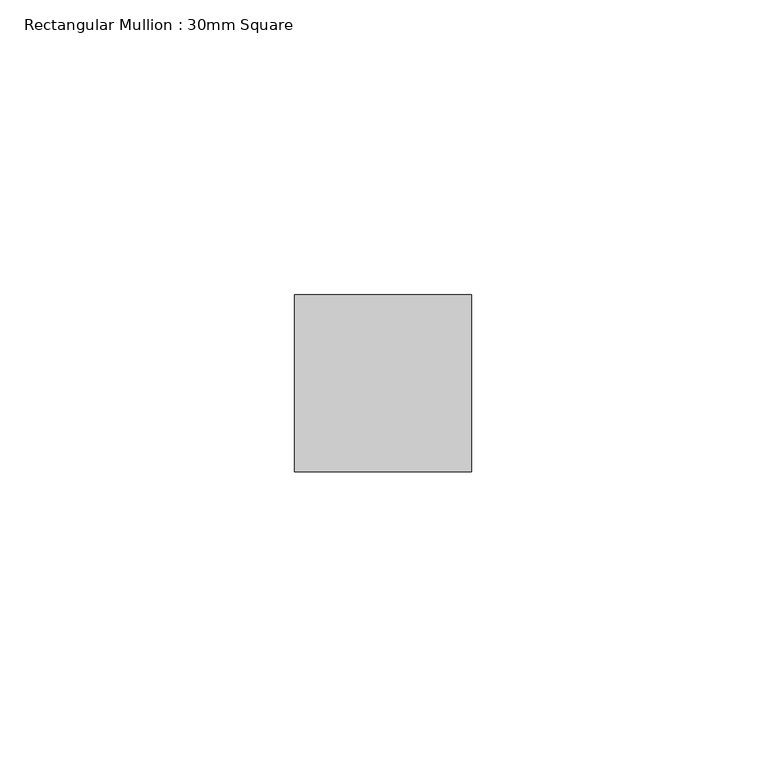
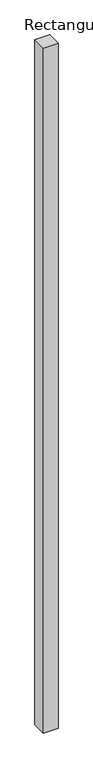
"""IFC4 building model written with IfcOpenShell, lengths in millimetres: member geometry, Rectangular Mullion : 30mm Square."""

from ifc_helpers import new_model, si_unit, frame, origin, place, context, project, spatial, polyline, outline, extrude, source, transform, mapped, element, save


def rectangular_mullion_30mm_square_353f8307(model_context):
    return source(origin(), model_context, "Body", "SweptSolid", [
        extrude(outline(polyline([(0.0, 15.0), (0.0, -15.0), (-30.0, -15.0), (-30.0, 15.0), (0.0, 15.0)])), frame((0.0, 0.0, -1479.0), z_axis=(0.0, 0.0, 1.0), x_axis=(1.0, 0.0, 0.0)), (0.0, 0.0, 1.0), 1479.0),
    ])


if __name__ == "__main__":
    model = new_model("IFC4")
    model_context = context("Model", 3, world=origin())
    ifc_project = project(units=[si_unit("LENGTHUNIT", "METRE", prefix="MILLI")], contexts=[model_context])
    site = spatial("IfcSite", under=ifc_project)
    building = spatial("IfcBuilding", under=site)
    placement = place(None, origin())
    rectangular_mullion_30mm_square_shape = rectangular_mullion_30mm_square_353f8307(model_context)
    element("IfcMember", 1, ObjectType="Rectangular Mullion : 30mm Square", at=placement, inside=building, context=model_context, shape_type="MappedRepresentation", body=[
        mapped(rectangular_mullion_30mm_square_shape, transform((0.0, 0.0, 0.0), x_axis=(1.0, 0.0, 0.0), y_axis=(0.0, 1.0, 0.0), z_axis=(0.0, 0.0, 1.0))),
    ])
    save(model, "model.ifc")
